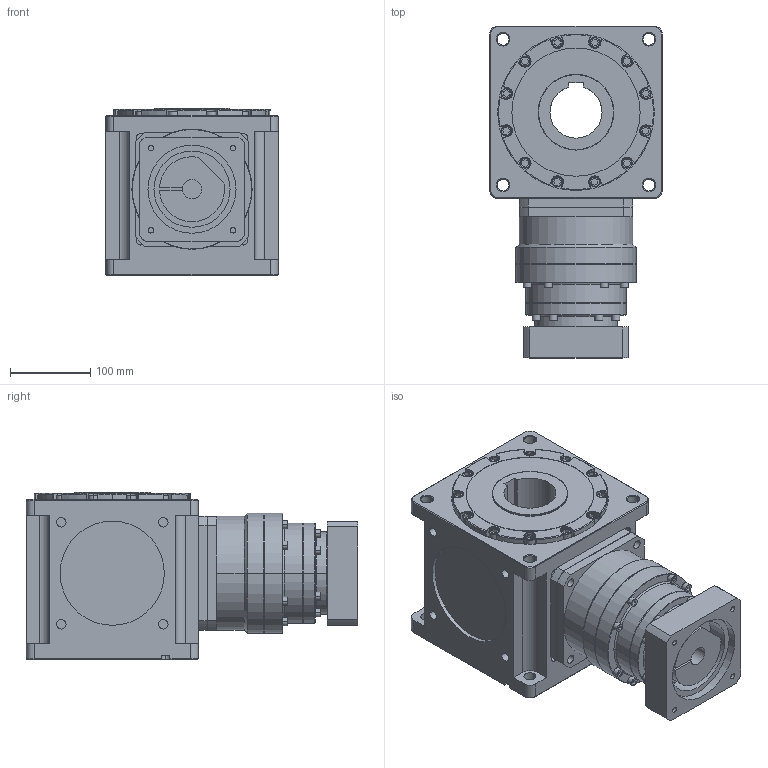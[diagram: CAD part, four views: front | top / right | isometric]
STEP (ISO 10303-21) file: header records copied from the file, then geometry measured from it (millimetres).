
FILE_DESCRIPTION (( 'STEP AP214' ), '1' );
FILE_NAME ('CCW215A-L2(24-200)-CR 24-110-145-M8.STEP', '2025-06-02T06:17:54', ( '微软用户' ), ( '微软中国' ), 'SwSTEP 2.0', 'SolidWorks 2024', '' );
FILE_SCHEMA (( 'AUTOMOTIVE_DESIGN' ));
Length unit declared in the file: millimetre
Products named in the file (4): CCW215A-L2(24-200)-CR 24-110-145-M8; CCW215A行星垫板; VRB-142-L2-S2-P1 24-110-145-M8; CCW215A-002-CR箱体
Assembly tree (3 placements, depth 2):
  CCW215A-L2(24-200)-CR 24-110-145-M8
    VRB-142-L2-S2-P1 24-110-145-M8
    CCW215A-002-CR箱体
    CCW215A行星垫板
Bounding box: 215 x 414 x 209 mm (x, y, z)
Volume: 10712546.8 mm3; surface area: 562205.8 mm2
Topology: 3 solids, 3 shells, 850 faces, 2071 edges, 1305 vertices
Faces by surface type: plane 397, cylinder 304, torus 67, cone 58, bspline 24
Entity records: 26076 total; most frequent: CARTESIAN_POINT 5421, DIRECTION 4521, ORIENTED_EDGE 4138, EDGE_CURVE 2069, AXIS2_PLACEMENT_3D 1689, VERTEX_POINT 1305, VECTOR 1143, LINE 1143
